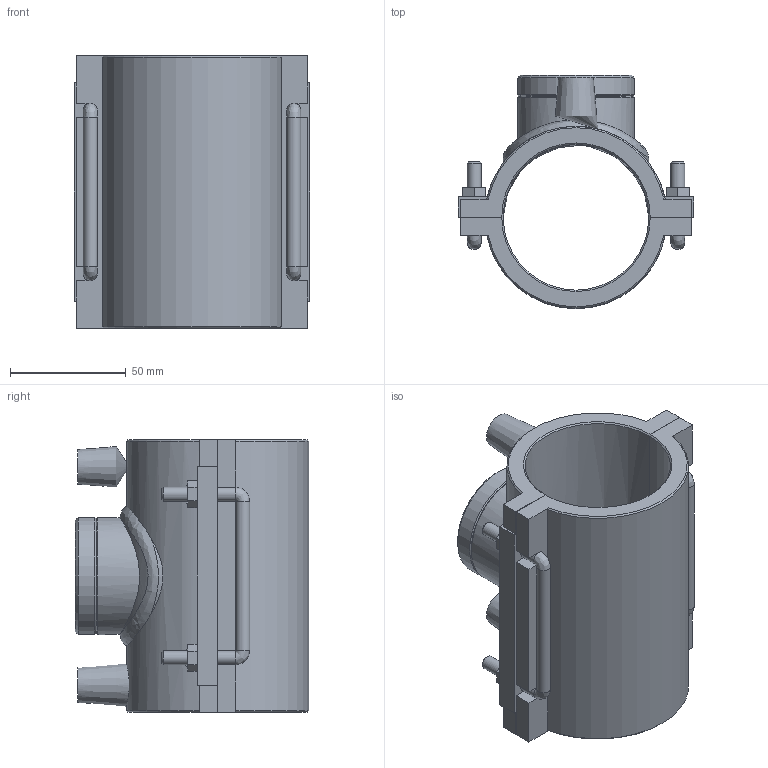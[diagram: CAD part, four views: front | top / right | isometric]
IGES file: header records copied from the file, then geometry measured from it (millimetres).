
Global section: file name: 4958T4063013.ipt; native system: Autodesk Inventor 2015; preprocessor: unknown; author: KIM; date: 20171106.094350; units: millimetre
Bounding box: 102 x 100.88 x 118 mm (x, y, z)
Volume: 271747.6 mm3; surface area: 84873.1 mm2
Topology: 1 solids, 2 shells, 142 faces, 361 edges, 226 vertices
Faces by surface type: plane 82, cylinder 22, revolution 16, cone 13, bspline 9
Full cylindrical faces by diameter (mm): 4 x2, 6 x10, 49.638 x1, 50.638 x2
